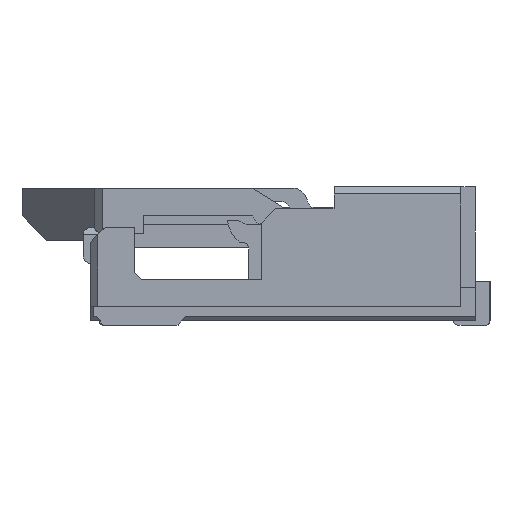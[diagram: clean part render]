
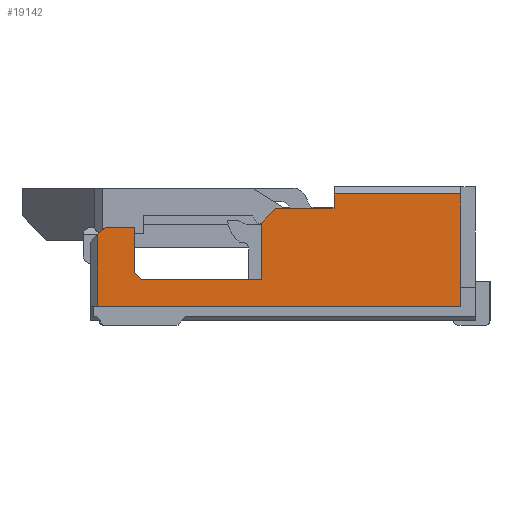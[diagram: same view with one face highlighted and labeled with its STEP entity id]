
A CAD part, left-side view. The second image highlights one B-rep face of the part: STEP entity #19142.
In plain terms, the highlighted planar face has unit normal (-1, 0, 0).
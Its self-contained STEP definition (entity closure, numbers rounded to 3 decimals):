
#19050=AXIS2_PLACEMENT_3D('Plane Axis2P3D',#19047,#19048,#19049) ;
#18998=CARTESIAN_POINT('Vertex',(-4.7,1.47,0.67)) ;
#19001=CARTESIAN_POINT('Line Origine',(-4.7,1.42,0.72)) ;
#19005=CARTESIAN_POINT('Vertex',(-4.7,1.37,0.77)) ;
#19028=CARTESIAN_POINT('Line Origine',(-4.7,1.17,0.77)) ;
#19032=CARTESIAN_POINT('Vertex',(-4.7,0.97,0.77)) ;
#19047=CARTESIAN_POINT('Axis2P3D Location',(-4.7,0.,0.)) ;
#19052=CARTESIAN_POINT('Line Origine',(-4.7,2.34,0.485)) ;
#19056=CARTESIAN_POINT('Vertex',(-4.7,2.34,0.64)) ;
#19058=CARTESIAN_POINT('Vertex',(-4.7,2.34,0.33)) ;
#19061=CARTESIAN_POINT('Line Origine',(-4.7,2.44,0.64)) ;
#19065=CARTESIAN_POINT('Vertex',(-4.7,2.54,0.64)) ;
#19068=CARTESIAN_POINT('Line Origine',(-4.7,2.565,0.615)) ;
#19072=CARTESIAN_POINT('Vertex',(-4.7,2.59,0.59)) ;
#19075=CARTESIAN_POINT('Line Origine',(-4.7,2.59,0.345)) ;
#19079=CARTESIAN_POINT('Vertex',(-4.7,2.59,0.1)) ;
#19082=CARTESIAN_POINT('Line Origine',(-4.7,1.345,0.1)) ;
#19086=CARTESIAN_POINT('Vertex',(-4.7,0.1,0.1)) ;
#19089=CARTESIAN_POINT('Line Origine',(-4.7,0.1,0.485)) ;
#19093=CARTESIAN_POINT('Vertex',(-4.7,0.1,0.87)) ;
#19096=CARTESIAN_POINT('Line Origine',(-4.7,0.535,0.87)) ;
#19100=CARTESIAN_POINT('Vertex',(-4.7,0.97,0.87)) ;
#19103=CARTESIAN_POINT('Line Origine',(-4.7,0.97,0.82)) ;
#19108=CARTESIAN_POINT('Line Origine',(-4.7,1.47,0.475)) ;
#19112=CARTESIAN_POINT('Vertex',(-4.7,1.47,0.28)) ;
#19115=CARTESIAN_POINT('Line Origine',(-4.7,1.88,0.28)) ;
#19119=CARTESIAN_POINT('Vertex',(-4.7,2.29,0.28)) ;
#19122=CARTESIAN_POINT('Line Origine',(-4.7,2.315,0.305)) ;
#19002=DIRECTION('Vector Direction',(0.,0.707,-0.707)) ;
#19029=DIRECTION('Vector Direction',(0.,1.,0.)) ;
#19048=DIRECTION('Axis2P3D Direction',(1.,0.,0.)) ;
#19049=DIRECTION('Axis2P3D XDirection',(0.,1.,0.)) ;
#19053=DIRECTION('Vector Direction',(0.,0.,1.)) ;
#19062=DIRECTION('Vector Direction',(0.,1.,0.)) ;
#19069=DIRECTION('Vector Direction',(0.,-0.707,0.707)) ;
#19076=DIRECTION('Vector Direction',(0.,0.,1.)) ;
#19083=DIRECTION('Vector Direction',(0.,1.,0.)) ;
#19090=DIRECTION('Vector Direction',(0.,0.,-1.)) ;
#19097=DIRECTION('Vector Direction',(0.,-1.,0.)) ;
#19104=DIRECTION('Vector Direction',(0.,0.,-1.)) ;
#19109=DIRECTION('Vector Direction',(0.,0.,-1.)) ;
#19116=DIRECTION('Vector Direction',(0.,1.,0.)) ;
#19123=DIRECTION('Vector Direction',(0.,-0.707,-0.707)) ;
#19003=VECTOR('Line Direction',#19002,1.) ;
#19030=VECTOR('Line Direction',#19029,1.) ;
#19054=VECTOR('Line Direction',#19053,1.) ;
#19063=VECTOR('Line Direction',#19062,1.) ;
#19070=VECTOR('Line Direction',#19069,1.) ;
#19077=VECTOR('Line Direction',#19076,1.) ;
#19084=VECTOR('Line Direction',#19083,1.) ;
#19091=VECTOR('Line Direction',#19090,1.) ;
#19098=VECTOR('Line Direction',#19097,1.) ;
#19105=VECTOR('Line Direction',#19104,1.) ;
#19110=VECTOR('Line Direction',#19109,1.) ;
#19117=VECTOR('Line Direction',#19116,1.) ;
#19124=VECTOR('Line Direction',#19123,1.) ;
#19128=ORIENTED_EDGE('',*,*,#19060,.F.) ;
#19129=ORIENTED_EDGE('',*,*,#19067,.F.) ;
#19130=ORIENTED_EDGE('',*,*,#19074,.T.) ;
#19131=ORIENTED_EDGE('',*,*,#19081,.F.) ;
#19132=ORIENTED_EDGE('',*,*,#19088,.T.) ;
#19133=ORIENTED_EDGE('',*,*,#19095,.F.) ;
#19134=ORIENTED_EDGE('',*,*,#19102,.F.) ;
#19135=ORIENTED_EDGE('',*,*,#19107,.F.) ;
#19136=ORIENTED_EDGE('',*,*,#19034,.T.) ;
#19137=ORIENTED_EDGE('',*,*,#19007,.T.) ;
#19138=ORIENTED_EDGE('',*,*,#19114,.F.) ;
#19139=ORIENTED_EDGE('',*,*,#19121,.F.) ;
#19140=ORIENTED_EDGE('',*,*,#19126,.F.) ;
#19142=ADVANCED_FACE('\X2\FF8AFF9FFF70FF82\X0\ \X2\FF8EFF9EFF83FF9EFF68FF70\X0\',(#19141),#19051,.F.) ;
#19007=EDGE_CURVE('',#19006,#18999,#19004,.T.) ;
#19034=EDGE_CURVE('',#19033,#19006,#19031,.T.) ;
#19060=EDGE_CURVE('',#19057,#19059,#19055,.F.) ;
#19067=EDGE_CURVE('',#19066,#19057,#19064,.F.) ;
#19074=EDGE_CURVE('',#19066,#19073,#19071,.F.) ;
#19081=EDGE_CURVE('',#19080,#19073,#19078,.T.) ;
#19088=EDGE_CURVE('',#19080,#19087,#19085,.F.) ;
#19095=EDGE_CURVE('',#19094,#19087,#19092,.T.) ;
#19102=EDGE_CURVE('',#19101,#19094,#19099,.T.) ;
#19107=EDGE_CURVE('',#19033,#19101,#19106,.F.) ;
#19114=EDGE_CURVE('',#19113,#18999,#19111,.F.) ;
#19121=EDGE_CURVE('',#19120,#19113,#19118,.F.) ;
#19126=EDGE_CURVE('',#19059,#19120,#19125,.T.) ;
#19127=EDGE_LOOP('',(#19128,#19129,#19130,#19131,#19132,#19133,#19134,#19135,#19136,#19137,#19138,#19139,#19140)) ;
#19141=FACE_OUTER_BOUND('',#19127,.T.) ;
#19004=LINE('Line',#19001,#19003) ;
#19031=LINE('Line',#19028,#19030) ;
#19055=LINE('Line',#19052,#19054) ;
#19064=LINE('Line',#19061,#19063) ;
#19071=LINE('Line',#19068,#19070) ;
#19078=LINE('Line',#19075,#19077) ;
#19085=LINE('Line',#19082,#19084) ;
#19092=LINE('Line',#19089,#19091) ;
#19099=LINE('Line',#19096,#19098) ;
#19106=LINE('Line',#19103,#19105) ;
#19111=LINE('Line',#19108,#19110) ;
#19118=LINE('Line',#19115,#19117) ;
#19125=LINE('Line',#19122,#19124) ;
#19051=PLANE('Plane',#19050) ;
#18999=VERTEX_POINT('',#18998) ;
#19006=VERTEX_POINT('',#19005) ;
#19033=VERTEX_POINT('',#19032) ;
#19057=VERTEX_POINT('',#19056) ;
#19059=VERTEX_POINT('',#19058) ;
#19066=VERTEX_POINT('',#19065) ;
#19073=VERTEX_POINT('',#19072) ;
#19080=VERTEX_POINT('',#19079) ;
#19087=VERTEX_POINT('',#19086) ;
#19094=VERTEX_POINT('',#19093) ;
#19101=VERTEX_POINT('',#19100) ;
#19113=VERTEX_POINT('',#19112) ;
#19120=VERTEX_POINT('',#19119) ;
